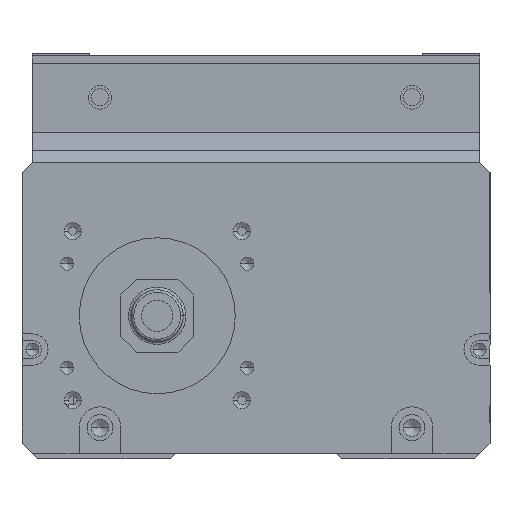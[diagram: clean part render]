
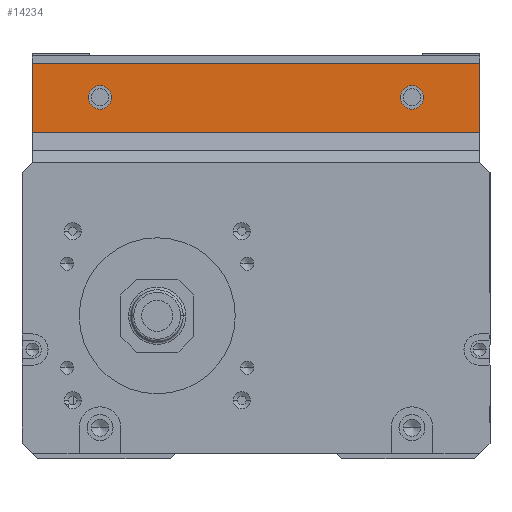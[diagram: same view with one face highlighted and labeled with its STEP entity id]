
A CAD part, front view. The second image highlights one B-rep face of the part: STEP entity #14234.
In plain terms, the highlighted planar face has unit normal (0, -1, 0).
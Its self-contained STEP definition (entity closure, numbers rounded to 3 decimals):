
#133 = AXIS2_PLACEMENT_3D ( 'NONE', #8086, #9248, #10450 ) ;
#156 = LINE ( 'NONE', #3483, #5533 ) ;
#414 = VECTOR ( 'NONE', #1820, 1000. ) ;
#798 = ORIENTED_EDGE ( 'NONE', *, *, #9681, .F. ) ;
#876 = CARTESIAN_POINT ( 'NONE',  ( 43., 78., -14.788 ) ) ;
#1174 = EDGE_LOOP ( 'NONE', ( #1964, #6324 ) ) ;
#1523 = CIRCLE ( 'NONE', #11027, 2.25 ) ;
#1579 = ORIENTED_EDGE ( 'NONE', *, *, #11645, .T. ) ;
#1746 = VERTEX_POINT ( 'NONE', #10670 ) ;
#1791 = ORIENTED_EDGE ( 'NONE', *, *, #13228, .T. ) ;
#1820 = DIRECTION ( 'NONE',  ( -1., 0., 0. ) ) ;
#1855 = CARTESIAN_POINT ( 'NONE',  ( 45., 78., -14.788 ) ) ;
#1964 = ORIENTED_EDGE ( 'NONE', *, *, #16013, .T. ) ;
#2456 = EDGE_LOOP ( 'NONE', ( #11742, #1579 ) ) ;
#3107 = CIRCLE ( 'NONE', #8233, 2.25 ) ;
#3414 = DIRECTION ( 'NONE',  ( 0., 0., 1. ) ) ;
#3483 = CARTESIAN_POINT ( 'NONE',  ( 43., 78., -1.5 ) ) ;
#3610 = VERTEX_POINT ( 'NONE', #11572 ) ;
#3912 = CARTESIAN_POINT ( 'NONE',  ( 45., 78., -1.5 ) ) ;
#4066 = CARTESIAN_POINT ( 'NONE',  ( -43., 78., -1.5 ) ) ;
#4522 = FACE_BOUND ( 'NONE', #1174, .T. ) ;
#4977 = VERTEX_POINT ( 'NONE', #15809 ) ;
#5533 = VECTOR ( 'NONE', #3414, 1000. ) ;
#5760 = CARTESIAN_POINT ( 'NONE',  ( -30., 78., -5.75 ) ) ;
#5799 = CARTESIAN_POINT ( 'NONE',  ( 30., 78., -5.75 ) ) ;
#6324 = ORIENTED_EDGE ( 'NONE', *, *, #10645, .T. ) ;
#6338 = VERTEX_POINT ( 'NONE', #876 ) ;
#6706 = CARTESIAN_POINT ( 'NONE',  ( -30., 78., -10.25 ) ) ;
#6741 = ORIENTED_EDGE ( 'NONE', *, *, #9523, .T. ) ;
#6765 = PLANE ( 'NONE',  #133 ) ;
#6817 = CARTESIAN_POINT ( 'NONE',  ( 30., 78., -8. ) ) ;
#7035 = EDGE_CURVE ( 'NONE', #15948, #4977, #14615, .T. ) ;
#7228 = EDGE_CURVE ( 'NONE', #15989, #10153, #1523, .T. ) ;
#7235 = AXIS2_PLACEMENT_3D ( 'NONE', #7953, #7919, #7839 ) ;
#7632 = LINE ( 'NONE', #3912, #12923 ) ;
#7839 = DIRECTION ( 'NONE',  ( 0., 0., -1. ) ) ;
#7919 = DIRECTION ( 'NONE',  ( 0., 1., 0. ) ) ;
#7953 = CARTESIAN_POINT ( 'NONE',  ( 30., 78., -8. ) ) ;
#8086 = CARTESIAN_POINT ( 'NONE',  ( 45., 78., -1.5 ) ) ;
#8136 = DIRECTION ( 'NONE',  ( 0., 1., 0. ) ) ;
#8233 = AXIS2_PLACEMENT_3D ( 'NONE', #6817, #8136, #9287 ) ;
#9248 = DIRECTION ( 'NONE',  ( 0., -1., 0. ) ) ;
#9287 = DIRECTION ( 'NONE',  ( 0., 0., -1. ) ) ;
#9523 = EDGE_CURVE ( 'NONE', #6338, #3610, #156, .T. ) ;
#9681 = EDGE_CURVE ( 'NONE', #6338, #4977, #11179, .T. ) ;
#9919 = FACE_OUTER_BOUND ( 'NONE', #10834, .T. ) ;
#10153 = VERTEX_POINT ( 'NONE', #5760 ) ;
#10450 = DIRECTION ( 'NONE',  ( 0., 0., -1. ) ) ;
#10645 = EDGE_CURVE ( 'NONE', #14735, #1746, #13328, .T. ) ;
#10670 = CARTESIAN_POINT ( 'NONE',  ( 30., 78., -10.25 ) ) ;
#10834 = EDGE_LOOP ( 'NONE', ( #798, #6741, #1791, #11490 ) ) ;
#10868 = VECTOR ( 'NONE', #13649, 1000. ) ;
#11027 = AXIS2_PLACEMENT_3D ( 'NONE', #15398, #15297, #15181 ) ;
#11179 = LINE ( 'NONE', #1855, #414 ) ;
#11490 = ORIENTED_EDGE ( 'NONE', *, *, #7035, .T. ) ;
#11572 = CARTESIAN_POINT ( 'NONE',  ( 43., 78., -1.5 ) ) ;
#11645 = EDGE_CURVE ( 'NONE', #10153, #15989, #15249, .T. ) ;
#11742 = ORIENTED_EDGE ( 'NONE', *, *, #7228, .T. ) ;
#12380 = AXIS2_PLACEMENT_3D ( 'NONE', #14447, #14445, #14420 ) ;
#12407 = DIRECTION ( 'NONE',  ( -1., 0., 0. ) ) ;
#12923 = VECTOR ( 'NONE', #12407, 1000. ) ;
#13228 = EDGE_CURVE ( 'NONE', #3610, #15948, #7632, .T. ) ;
#13328 = CIRCLE ( 'NONE', #7235, 2.25 ) ;
#13649 = DIRECTION ( 'NONE',  ( 0., 0., -1. ) ) ;
#13755 = CARTESIAN_POINT ( 'NONE',  ( -43., 78., -1.5 ) ) ;
#14234 = ADVANCED_FACE ( 'NONE', ( #15203, #4522, #9919 ), #6765, .T. ) ;
#14420 = DIRECTION ( 'NONE',  ( 0., 0., 1. ) ) ;
#14445 = DIRECTION ( 'NONE',  ( 0., 1., 0. ) ) ;
#14447 = CARTESIAN_POINT ( 'NONE',  ( -30., 78., -8. ) ) ;
#14615 = LINE ( 'NONE', #13755, #10868 ) ;
#14735 = VERTEX_POINT ( 'NONE', #5799 ) ;
#15181 = DIRECTION ( 'NONE',  ( 0., 0., 1. ) ) ;
#15203 = FACE_BOUND ( 'NONE', #2456, .T. ) ;
#15249 = CIRCLE ( 'NONE', #12380, 2.25 ) ;
#15297 = DIRECTION ( 'NONE',  ( 0., 1., 0. ) ) ;
#15398 = CARTESIAN_POINT ( 'NONE',  ( -30., 78., -8. ) ) ;
#15809 = CARTESIAN_POINT ( 'NONE',  ( -43., 78., -14.788 ) ) ;
#15948 = VERTEX_POINT ( 'NONE', #4066 ) ;
#15989 = VERTEX_POINT ( 'NONE', #6706 ) ;
#16013 = EDGE_CURVE ( 'NONE', #1746, #14735, #3107, .T. ) ;
